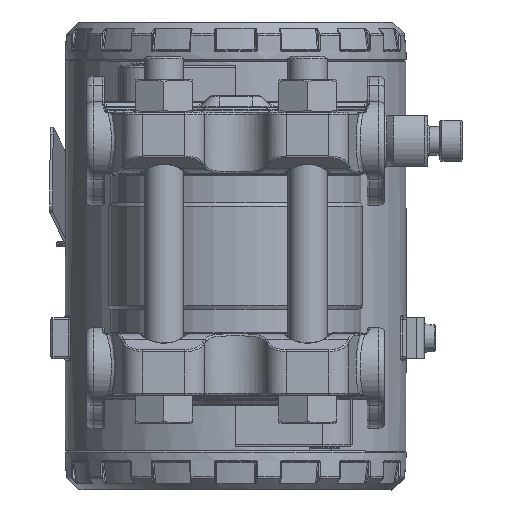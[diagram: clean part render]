
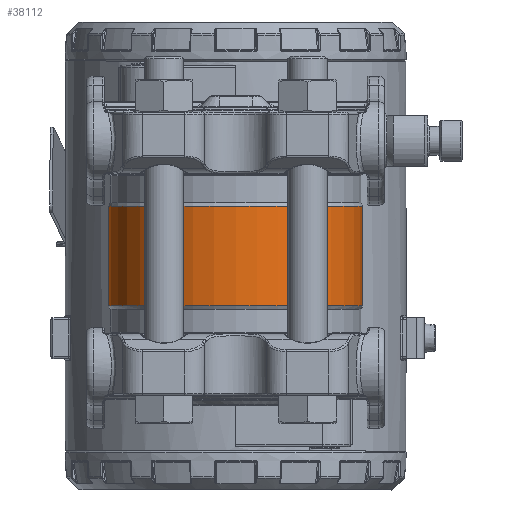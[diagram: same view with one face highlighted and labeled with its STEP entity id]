
A CAD part, left-side view. The second image highlights one B-rep face of the part: STEP entity #38112.
In plain terms, the highlighted cylindrical face has radius 31 mm (diameter 62 mm), a partial arc.
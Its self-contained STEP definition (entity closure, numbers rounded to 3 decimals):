
#2312=B_SPLINE_CURVE_WITH_KNOTS('',3,(#68583,#68584,#68585,#68586,#68587,
#68588),.UNSPECIFIED.,.F.,.F.,(4,1,1,4),(0.383,0.548,
0.913,1.279),.UNSPECIFIED.);
#2314=B_SPLINE_CURVE_WITH_KNOTS('',3,(#68601,#68602,#68603,#68604,#68605,
#68606),.UNSPECIFIED.,.F.,.F.,(4,1,1,4),(0.,0.274,0.548,
0.896),.UNSPECIFIED.);
#2315=B_SPLINE_CURVE_WITH_KNOTS('',3,(#68609,#68610,#68611,#68612,#68613,
#68614),.UNSPECIFIED.,.F.,.F.,(4,1,1,4),(0.383,0.548,
0.913,1.279),.UNSPECIFIED.);
#2316=B_SPLINE_CURVE_WITH_KNOTS('',3,(#68616,#68617,#68618,#68619,#68620,
#68621),.UNSPECIFIED.,.F.,.F.,(4,1,1,4),(0.,0.274,
0.548,0.895),.UNSPECIFIED.);
#3899=CYLINDRICAL_SURFACE('',#42039,31.);
#5124=FACE_OUTER_BOUND('',#7687,.T.);
#7687=EDGE_LOOP('',(#28825,#28826,#28827,#28828,#28829,#28830,#28831,#28832,
#28833,#28834));
#9899=LINE('',#68608,#11273);
#9900=LINE('',#68622,#11274);
#11273=VECTOR('',#49309,10.);
#11274=VECTOR('',#49310,10.);
#13244=CIRCLE('',#42019,31.);
#13247=CIRCLE('',#42022,31.);
#13253=CIRCLE('',#42032,31.);
#13254=CIRCLE('',#42033,31.);
#16398=VERTEX_POINT('',#68450);
#16400=VERTEX_POINT('',#68463);
#16401=VERTEX_POINT('',#68476);
#16413=VERTEX_POINT('',#68519);
#16414=VERTEX_POINT('',#68521);
#16415=VERTEX_POINT('',#68533);
#16417=VERTEX_POINT('',#68582);
#16420=VERTEX_POINT('',#68600);
#16421=VERTEX_POINT('',#68607);
#16422=VERTEX_POINT('',#68615);
#20777=EDGE_CURVE('',#16401,#16400,#13244,.T.);
#20781=EDGE_CURVE('',#16398,#16401,#13247,.T.);
#20793=EDGE_CURVE('',#16414,#16413,#13253,.T.);
#20796=EDGE_CURVE('',#16413,#16415,#13254,.T.);
#20800=EDGE_CURVE('',#16398,#16417,#2312,.T.);
#20804=EDGE_CURVE('',#16420,#16400,#2314,.T.);
#20805=EDGE_CURVE('',#16421,#16420,#9899,.T.);
#20806=EDGE_CURVE('',#16414,#16421,#2315,.T.);
#20807=EDGE_CURVE('',#16422,#16415,#2316,.T.);
#20808=EDGE_CURVE('',#16417,#16422,#9900,.T.);
#28825=ORIENTED_EDGE('',*,*,#20781,.T.);
#28826=ORIENTED_EDGE('',*,*,#20777,.T.);
#28827=ORIENTED_EDGE('',*,*,#20804,.F.);
#28828=ORIENTED_EDGE('',*,*,#20805,.F.);
#28829=ORIENTED_EDGE('',*,*,#20806,.F.);
#28830=ORIENTED_EDGE('',*,*,#20793,.T.);
#28831=ORIENTED_EDGE('',*,*,#20796,.T.);
#28832=ORIENTED_EDGE('',*,*,#20807,.F.);
#28833=ORIENTED_EDGE('',*,*,#20808,.F.);
#28834=ORIENTED_EDGE('',*,*,#20800,.F.);
#38112=ADVANCED_FACE('',(#5124),#3899,.T.);
#42019=AXIS2_PLACEMENT_3D('',#68477,#49263,#49264);
#42022=AXIS2_PLACEMENT_3D('',#68483,#49270,#49271);
#42032=AXIS2_PLACEMENT_3D('',#68522,#49292,#49293);
#42033=AXIS2_PLACEMENT_3D('',#68546,#49294,#49295);
#42039=AXIS2_PLACEMENT_3D('',#68599,#49307,#49308);
#49263=DIRECTION('center_axis',(0.,0.,1.));
#49264=DIRECTION('ref_axis',(-1.,0.,0.));
#49270=DIRECTION('center_axis',(0.,0.,1.));
#49271=DIRECTION('ref_axis',(-1.,0.,0.));
#49292=DIRECTION('center_axis',(0.,0.,-1.));
#49293=DIRECTION('ref_axis',(-1.,0.,0.));
#49294=DIRECTION('center_axis',(0.,0.,-1.));
#49295=DIRECTION('ref_axis',(-1.,0.,0.));
#49307=DIRECTION('center_axis',(0.,0.,1.));
#49308=DIRECTION('ref_axis',(-1.,0.,0.));
#49309=DIRECTION('',(0.,0.,-1.));
#49310=DIRECTION('',(0.,0.,1.));
#68450=CARTESIAN_POINT('',(29.987,7.86,-12.134));
#68463=CARTESIAN_POINT('',(29.987,-7.86,-12.134));
#68476=CARTESIAN_POINT('',(-31.,0.,-12.134));
#68477=CARTESIAN_POINT('Origin',(0.,0.,-12.134));
#68483=CARTESIAN_POINT('Origin',(0.,0.,-12.134));
#68519=CARTESIAN_POINT('',(-31.,0.,12.134));
#68521=CARTESIAN_POINT('',(29.987,-7.86,12.134));
#68522=CARTESIAN_POINT('Origin',(0.,0.,12.134));
#68533=CARTESIAN_POINT('',(29.987,7.86,12.134));
#68546=CARTESIAN_POINT('Origin',(0.,0.,12.134));
#68582=CARTESIAN_POINT('',(28.645,11.853,-5.));
#68583=CARTESIAN_POINT('Ctrl Pts',(29.985,7.857,-12.131));
#68584=CARTESIAN_POINT('Ctrl Pts',(29.871,8.293,-11.889));
#68585=CARTESIAN_POINT('Ctrl Pts',(29.495,9.621,-10.961));
#68586=CARTESIAN_POINT('Ctrl Pts',(28.867,11.328,-8.643));
#68587=CARTESIAN_POINT('Ctrl Pts',(28.645,11.853,-6.218));
#68588=CARTESIAN_POINT('Ctrl Pts',(28.645,11.853,-5.));
#68599=CARTESIAN_POINT('Origin',(0.,0.,0.));
#68600=CARTESIAN_POINT('',(28.645,-11.853,-5.));
#68601=CARTESIAN_POINT('Ctrl Pts',(28.645,-11.853,-5.));
#68602=CARTESIAN_POINT('Ctrl Pts',(28.645,-11.853,-5.913));
#68603=CARTESIAN_POINT('Ctrl Pts',(28.767,-11.563,-7.738));
#68604=CARTESIAN_POINT('Ctrl Pts',(29.282,-10.232,-10.332));
#68605=CARTESIAN_POINT('Ctrl Pts',(29.747,-8.777,-11.623));
#68606=CARTESIAN_POINT('Ctrl Pts',(29.987,-7.86,-12.134));
#68607=CARTESIAN_POINT('',(28.645,-11.853,5.));
#68608=CARTESIAN_POINT('',(28.645,-11.853,0.));
#68609=CARTESIAN_POINT('Ctrl Pts',(29.985,-7.857,12.131));
#68610=CARTESIAN_POINT('Ctrl Pts',(29.871,-8.293,11.889));
#68611=CARTESIAN_POINT('Ctrl Pts',(29.495,-9.621,10.961));
#68612=CARTESIAN_POINT('Ctrl Pts',(28.867,-11.328,8.643));
#68613=CARTESIAN_POINT('Ctrl Pts',(28.645,-11.853,6.218));
#68614=CARTESIAN_POINT('Ctrl Pts',(28.645,-11.853,5.));
#68615=CARTESIAN_POINT('',(28.645,11.853,5.));
#68616=CARTESIAN_POINT('Ctrl Pts',(28.645,11.853,5.));
#68617=CARTESIAN_POINT('Ctrl Pts',(28.645,11.853,5.913));
#68618=CARTESIAN_POINT('Ctrl Pts',(28.767,11.563,7.738));
#68619=CARTESIAN_POINT('Ctrl Pts',(29.282,10.232,10.332));
#68620=CARTESIAN_POINT('Ctrl Pts',(29.747,8.777,11.623));
#68621=CARTESIAN_POINT('Ctrl Pts',(29.987,7.86,12.134));
#68622=CARTESIAN_POINT('',(28.645,11.853,0.));
